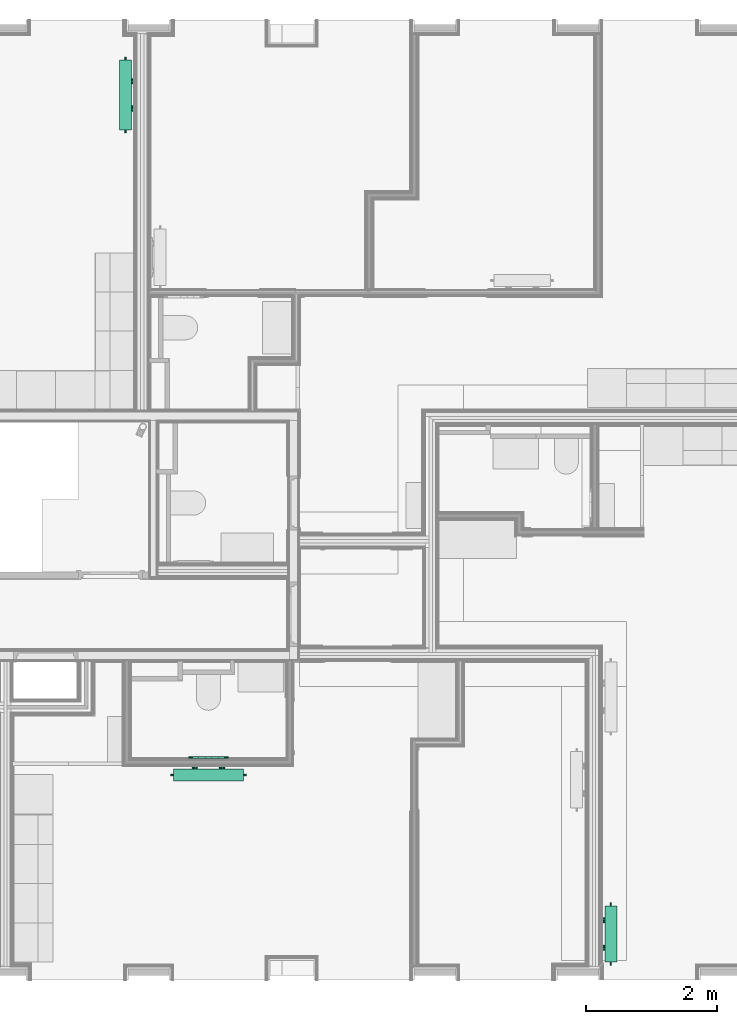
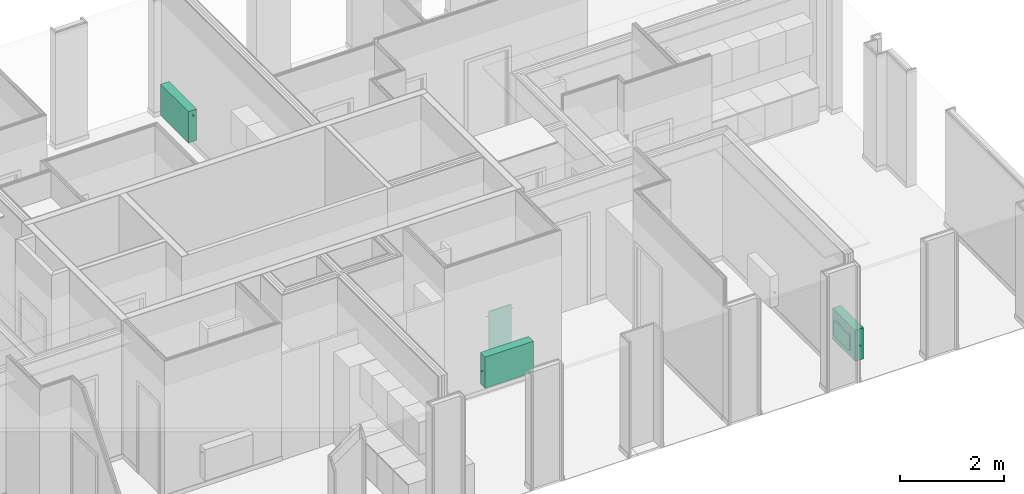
# One storey, part 58 of 64: 4 flow terminals.
"""IFC2X3 building model written with IfcOpenShell, lengths in metres."""

from ifc_helpers import new_model, entity, si_unit, converted_unit, derived_unit, money_unit, direction, frame, origin_with_axes, place, context, subcontext, project, spatial, open_shell, surface_model, material, type_object, element, save


model = new_model("IFC2X3")

# Units and contexts
model_context = context("Model", 3, precision=1e-05, world=origin_with_axes(), true_north=direction((0.0, 1.0)))
body_context = subcontext(model_context, "Body", "Model", "MODEL_VIEW", scale=1.0)
ifc_project = project(units=[si_unit("LENGTHUNIT", "METRE"), si_unit("AREAUNIT", "SQUARE_METRE"), si_unit("VOLUMEUNIT", "CUBIC_METRE"), si_unit("ABSORBEDDOSEUNIT", "GRAY"), si_unit("AMOUNTOFSUBSTANCEUNIT", "MOLE"), si_unit("DOSEEQUIVALENTUNIT", "SIEVERT"), si_unit("ELECTRICCAPACITANCEUNIT", "FARAD"), si_unit("ELECTRICCHARGEUNIT", "COULOMB"), si_unit("ELECTRICCONDUCTANCEUNIT", "SIEMENS"), si_unit("ELECTRICCURRENTUNIT", "AMPERE"), si_unit("ELECTRICRESISTANCEUNIT", "OHM"), si_unit("ELECTRICVOLTAGEUNIT", "VOLT"), si_unit("ENERGYUNIT", "JOULE"), si_unit("FORCEUNIT", "NEWTON"), si_unit("FREQUENCYUNIT", "HERTZ"), si_unit("ILLUMINANCEUNIT", "LUX"), si_unit("INDUCTANCEUNIT", "HENRY"), si_unit("LUMINOUSFLUXUNIT", "LUMEN"), si_unit("LUMINOUSINTENSITYUNIT", "CANDELA"), si_unit("MAGNETICFLUXDENSITYUNIT", "TESLA"), si_unit("MAGNETICFLUXUNIT", "WEBER"), si_unit("MASSUNIT", "GRAM"), converted_unit("PLANEANGLEUNIT", "degree", entity("IfcReal", 0.0174532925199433), si_unit("PLANEANGLEUNIT", "RADIAN"), dimensions=[0, 0, 0, 0, 0, 0, 0]), si_unit("POWERUNIT", "WATT"), si_unit("PRESSUREUNIT", "PASCAL"), si_unit("RADIOACTIVITYUNIT", "BECQUEREL"), si_unit("SOLIDANGLEUNIT", "STERADIAN"), si_unit("THERMODYNAMICTEMPERATUREUNIT", "KELVIN"), si_unit("TIMEUNIT", "SECOND"), derived_unit("ACCELERATIONUNIT", [(si_unit("LENGTHUNIT", "METRE"), 1), (si_unit("TIMEUNIT", "SECOND"), -2)]), derived_unit("ANGULARVELOCITYUNIT", [(converted_unit("PLANEANGLEUNIT", "degree", entity("IfcReal", 0.0174532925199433), si_unit("PLANEANGLEUNIT", "RADIAN"), dimensions=[0, 0, 0, 0, 0, 0, 0]), 1), (si_unit("TIMEUNIT", "SECOND"), -1)]), derived_unit("CURVATUREUNIT", [(converted_unit("PLANEANGLEUNIT", "degree", entity("IfcReal", 0.0174532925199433), si_unit("PLANEANGLEUNIT", "RADIAN"), dimensions=[0, 0, 0, 0, 0, 0, 0]), 1), (si_unit("LENGTHUNIT", "METRE"), -1)]), derived_unit("DYNAMICVISCOSITYUNIT", [(si_unit("PRESSUREUNIT", "PASCAL"), 1), (si_unit("TIMEUNIT", "SECOND"), 1)]), derived_unit("HEATFLUXDENSITYUNIT", [(si_unit("POWERUNIT", "WATT"), 1), (si_unit("LENGTHUNIT", "METRE"), -2)]), derived_unit("HEATINGVALUEUNIT", [(si_unit("ENERGYUNIT", "JOULE"), 1), (si_unit("MASSUNIT", "GRAM"), -1)]), derived_unit("INTEGERCOUNTRATEUNIT", [(si_unit("TIMEUNIT", "SECOND"), -1)]), derived_unit("IONCONCENTRATIONUNIT", [(si_unit("MASSUNIT", "GRAM"), 1), (si_unit("VOLUMEUNIT", "CUBIC_METRE"), -1)]), derived_unit("ISOTHERMALMOISTURECAPACITYUNIT", [(si_unit("VOLUMEUNIT", "CUBIC_METRE"), 1), (si_unit("MASSUNIT", "GRAM"), -1)]), derived_unit("KINEMATICVISCOSITYUNIT", [(si_unit("AREAUNIT", "SQUARE_METRE"), 1), (si_unit("TIMEUNIT", "SECOND"), -1)]), derived_unit("LINEARFORCEUNIT", [(si_unit("FORCEUNIT", "NEWTON"), 1), (si_unit("LENGTHUNIT", "METRE"), -1)]), derived_unit("LINEARMOMENTUNIT", [(si_unit("FORCEUNIT", "NEWTON"), 1), (si_unit("LENGTHUNIT", "METRE"), -1)]), derived_unit("LINEARSTIFFNESSUNIT", [(si_unit("FORCEUNIT", "NEWTON"), 1), (si_unit("LENGTHUNIT", "METRE"), -1)]), derived_unit("LINEARVELOCITYUNIT", [(si_unit("LENGTHUNIT", "METRE"), 1), (si_unit("TIMEUNIT", "SECOND"), -1)]), derived_unit("LUMINOUSINTENSITYDISTRIBUTIONUNIT", [(si_unit("LUMINOUSINTENSITYUNIT", "CANDELA"), 1), (si_unit("LUMINOUSFLUXUNIT", "LUMEN"), -1)]), derived_unit("MASSDENSITYUNIT", [(si_unit("MASSUNIT", "GRAM"), 1), (si_unit("VOLUMEUNIT", "CUBIC_METRE"), -1)]), derived_unit("MASSFLOWRATEUNIT", [(si_unit("MASSUNIT", "GRAM"), 1), (si_unit("TIMEUNIT", "SECOND"), -1)]), derived_unit("MASSPERLENGTHUNIT", [(si_unit("MASSUNIT", "GRAM"), 1), (si_unit("LENGTHUNIT", "METRE"), -1)]), derived_unit("MODULUSOFELASTICITYUNIT", [(si_unit("FORCEUNIT", "NEWTON"), 1), (si_unit("AREAUNIT", "SQUARE_METRE"), -1)]), derived_unit("MODULUSOFLINEARSUBGRADEREACTIONUNIT", [(si_unit("FORCEUNIT", "NEWTON"), 1), (si_unit("LENGTHUNIT", "METRE"), -2)]), derived_unit("MODULUSOFROTATIONALSUBGRADEREACTIONUNIT", [(si_unit("FORCEUNIT", "NEWTON"), 1), (si_unit("LENGTHUNIT", "METRE"), 1)]), derived_unit("MODULUSOFSUBGRADEREACTIONUNIT", [(si_unit("FORCEUNIT", "NEWTON"), 1), (si_unit("VOLUMEUNIT", "CUBIC_METRE"), -1)]), derived_unit("MOISTUREDIFFUSIVITYUNIT", [(si_unit("VOLUMEUNIT", "CUBIC_METRE"), 1), (si_unit("TIMEUNIT", "SECOND"), -1)]), derived_unit("MOLECULARWEIGHTUNIT", [(si_unit("MASSUNIT", "GRAM"), 1), (si_unit("AMOUNTOFSUBSTANCEUNIT", "MOLE"), -1)]), derived_unit("PLANARFORCEUNIT", [(si_unit("FORCEUNIT", "NEWTON"), 1), (si_unit("LENGTHUNIT", "METRE"), -2)]), derived_unit("ROTATIONALFREQUENCYUNIT", [(si_unit("TIMEUNIT", "SECOND"), -1)]), derived_unit("ROTATIONALMASSUNIT", [(si_unit("MASSUNIT", "GRAM"), 1), (si_unit("LENGTHUNIT", "METRE"), 2)]), derived_unit("ROTATIONALSTIFFNESSUNIT", [(si_unit("FORCEUNIT", "NEWTON"), 1), (si_unit("LENGTHUNIT", "METRE"), 1), (converted_unit("PLANEANGLEUNIT", "degree", entity("IfcReal", 0.0174532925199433), si_unit("PLANEANGLEUNIT", "RADIAN"), dimensions=[0, 0, 0, 0, 0, 0, 0]), -1)]), derived_unit("SECTIONAREAINTEGRALUNIT", [(si_unit("LENGTHUNIT", "METRE"), 5)]), derived_unit("SECTIONMODULUSUNIT", [(si_unit("LENGTHUNIT", "METRE"), 3)]), derived_unit("SHEARMODULUSUNIT", [(si_unit("FORCEUNIT", "NEWTON"), 1), (si_unit("AREAUNIT", "SQUARE_METRE"), -1)]), derived_unit("SOUNDPOWERUNIT", [(si_unit("ENERGYUNIT", "JOULE"), 1), (si_unit("TIMEUNIT", "SECOND"), -1)]), derived_unit("SPECIFICHEATCAPACITYUNIT", [(si_unit("FORCEUNIT", "NEWTON"), 1), (si_unit("MASSUNIT", "GRAM"), -1), (si_unit("THERMODYNAMICTEMPERATUREUNIT", "KELVIN"), -1)]), derived_unit("TEMPERATUREGRADIENTUNIT", [(si_unit("THERMODYNAMICTEMPERATUREUNIT", "KELVIN"), 1), (si_unit("LENGTHUNIT", "METRE"), -1)]), derived_unit("THERMALADMITTANCEUNIT", [(si_unit("POWERUNIT", "WATT"), 1), (si_unit("AREAUNIT", "SQUARE_METRE"), -1), (si_unit("THERMODYNAMICTEMPERATUREUNIT", "KELVIN"), -1)]), derived_unit("THERMALCONDUCTANCEUNIT", [(si_unit("POWERUNIT", "WATT"), 1), (si_unit("LENGTHUNIT", "METRE"), -1), (si_unit("THERMODYNAMICTEMPERATUREUNIT", "KELVIN"), -1)]), derived_unit("THERMALEXPANSIONCOEFFICIENTUNIT", [(si_unit("THERMODYNAMICTEMPERATUREUNIT", "KELVIN"), -1)]), derived_unit("THERMALRESISTANCEUNIT", [(si_unit("AREAUNIT", "SQUARE_METRE"), 1), (si_unit("POWERUNIT", "WATT"), -1)]), derived_unit("THERMALTRANSMITTANCEUNIT", [(si_unit("POWERUNIT", "WATT"), 1), (si_unit("AREAUNIT", "SQUARE_METRE"), -1), (si_unit("THERMODYNAMICTEMPERATUREUNIT", "KELVIN"), -1)]), derived_unit("TORQUEUNIT", [(si_unit("FORCEUNIT", "NEWTON"), 1), (si_unit("LENGTHUNIT", "METRE"), 1)]), derived_unit("VAPORPERMEABILITYUNIT", [(si_unit("MASSUNIT", "GRAM"), 1), (si_unit("TIMEUNIT", "SECOND"), -1)]), derived_unit("VOLUMETRICFLOWRATEUNIT", [(si_unit("VOLUMEUNIT", "CUBIC_METRE"), 1), (si_unit("TIMEUNIT", "SECOND"), -1)]), derived_unit("WARPINGCONSTANTUNIT", [(si_unit("LENGTHUNIT", "METRE"), 6)]), derived_unit("WARPINGMOMENTUNIT", [(si_unit("FORCEUNIT", "NEWTON"), 1), (si_unit("LENGTHUNIT", "METRE"), 2)]), money_unit("GBP")], contexts=[model_context])

# Site, building, storey, space
site_placement = place(None, origin_with_axes())
site = spatial("IfcSite", under=ifc_project, at=site_placement, Name="Site", CompositionType="ELEMENT")
building_placement = place(site_placement, origin_with_axes())
building = spatial("IfcBuilding", under=site, at=building_placement, Name="Building01", CompositionType="ELEMENT")
storey_placement = place(building_placement, frame((0.0, 0.0, 8.64), z_axis=(0.0, 0.0, 1.0), x_axis=(1.0, 0.0, 0.0)))
storey = spatial("IfcBuildingStorey", under=building, at=storey_placement, Name="2F", CompositionType="ELEMENT", Elevation=8.64)
space_1_placement = place(storey_placement, frame((14.85, 4.98, 0.017975), z_axis=(0.0, 0.0, 1.0), x_axis=(0.0, -1.0, 0.0)))
space_1 = spatial("IfcSpace", under=storey, at=space_1_placement, Name="11", CompositionType="ELEMENT", InteriorOrExteriorSpace="NOTDEFINED")

# Flow terminal
ifc_material = material(Name="M_BSUK_Ventilation")
space_heater_type_1 = type_object("IfcSpaceHeaterType", Name="M-BmvRadiatorpanel-Panel", PredefinedType="NOTDEFINED")
flow_terminal_1_placement = place(storey_placement, frame((16.072964, 3.23975, 0.68), z_axis=(0.0, 0.0, 1.0), x_axis=(1.0, 0.0, 0.0)))
element("IfcFlowTerminal", 1, at=flow_terminal_1_placement, inside=space_1, type_object=space_heater_type_1, material=ifc_material, Name="M-BmvRadiatorpanel-Panel", ObjectType="M-BmvRadiatorpanel-Panel", context=body_context, shape_type="SurfaceModel", body=[
    surface_model("IfcShellBasedSurfaceModel", [(1.069, -0.0925, 0.365), (1.069, 0.0925, 0.365), (0.0, 0.0925, 0.365), (0.0, -0.0925, 0.365), (1.069, -0.0925, -0.365), (1.069, 0.0925, -0.365), (0.0, -0.0925, -0.365), (0.0, 0.0925, -0.365), (0.2345, 0.12025, 0.175), (0.8345, 0.12025, 0.175), (0.8345, 0.14525, 0.175), (0.2345, 0.14525, 0.175), (0.8345, 0.14525, -0.175), (0.2345, 0.14525, -0.175), (0.8345, 0.12025, -0.175), (0.2345, 0.12025, -0.175), (0.3245, 0.0925, 0.0775), (0.3245, 0.12025, 0.0775), (0.341721, 0.12025, 0.080925), (0.341721, 0.0925, 0.080925), (0.35632, 0.12025, 0.09068), (0.35632, 0.0925, 0.09068), (0.366075, 0.12025, 0.105279), (0.366075, 0.0925, 0.105279), (0.3695, 0.12025, 0.1225), (0.3695, 0.0925, 0.1225), (0.366075, 0.12025, 0.139721), (0.366075, 0.0925, 0.139721), (0.35632, 0.12025, 0.15432), (0.35632, 0.0925, 0.15432), (0.341721, 0.12025, 0.164075), (0.341721, 0.0925, 0.164075), (0.3245, 0.12025, 0.1675), (0.3245, 0.0925, 0.1675), (0.307279, 0.12025, 0.164075), (0.307279, 0.0925, 0.164075), (0.29268, 0.12025, 0.15432), (0.29268, 0.0925, 0.15432), (0.282925, 0.12025, 0.139721), (0.282925, 0.0925, 0.139721), (0.2795, 0.12025, 0.1225), (0.2795, 0.0925, 0.1225), (0.282925, 0.12025, 0.105279), (0.282925, 0.0925, 0.105279), (0.29268, 0.12025, 0.09068), (0.29268, 0.0925, 0.09068), (0.307279, 0.12025, 0.080925), (0.307279, 0.0925, 0.080925), (0.7445, 0.0925, 0.0775), (0.7445, 0.12025, 0.0775), (0.761721, 0.12025, 0.080925), (0.761721, 0.0925, 0.080925), (0.77632, 0.12025, 0.09068), (0.77632, 0.0925, 0.09068), (0.786075, 0.12025, 0.105279), (0.786075, 0.0925, 0.105279), (0.7895, 0.12025, 0.1225), (0.7895, 0.0925, 0.1225), (0.786075, 0.12025, 0.139721), (0.786075, 0.0925, 0.139721), (0.77632, 0.12025, 0.15432), (0.77632, 0.0925, 0.15432), (0.761721, 0.12025, 0.164075), (0.761721, 0.0925, 0.164075), (0.7445, 0.12025, 0.1675), (0.7445, 0.0925, 0.1675), (0.727279, 0.12025, 0.164075), (0.727279, 0.0925, 0.164075), (0.71268, 0.12025, 0.15432), (0.71268, 0.0925, 0.15432), (0.702925, 0.12025, 0.139721), (0.702925, 0.0925, 0.139721), (0.6995, 0.12025, 0.1225), (0.6995, 0.0925, 0.1225), (0.702925, 0.12025, 0.105279), (0.702925, 0.0925, 0.105279), (0.71268, 0.12025, 0.09068), (0.71268, 0.0925, 0.09068), (0.727279, 0.12025, 0.080925), (0.727279, 0.0925, 0.080925), (-0.05, 0.0, -0.0225), (0.0, 0.0, -0.0225), (0.0, -0.004784, -0.021548), (-0.05, -0.004784, -0.021548), (0.0, -0.008839, -0.018839), (-0.05, -0.008839, -0.018839), (0.0, -0.011548, -0.014784), (-0.05, -0.011548, -0.014784), (0.0, -0.0125, -0.01), (-0.05, -0.0125, -0.01), (0.0, -0.011548, -0.005216), (-0.05, -0.011548, -0.005216), (0.0, -0.008839, -0.001161), (-0.05, -0.008839, -0.001161), (0.0, -0.004784, 0.001548), (-0.05, -0.004784, 0.001548), (0.0, 0.0, 0.0025), (-0.05, 0.0, 0.0025), (0.0, 0.004784, 0.001548), (-0.05, 0.004784, 0.001548), (0.0, 0.008839, -0.001161), (-0.05, 0.008839, -0.001161), (0.0, 0.011548, -0.005216), (-0.05, 0.011548, -0.005216), (0.0, 0.0125, -0.01), (-0.05, 0.0125, -0.01), (0.0, 0.011548, -0.014784), (-0.05, 0.011548, -0.014784), (0.0, 0.008839, -0.018839), (-0.05, 0.008839, -0.018839), (0.0, 0.004784, -0.021548), (-0.05, 0.004784, -0.021548), (1.119, 0.0, 0.2525), (1.069, 0.0, 0.2525), (1.069, 0.004784, 0.253452), (1.119, 0.004784, 0.253452), (1.069, 0.008839, 0.256161), (1.119, 0.008839, 0.256161), (1.069, 0.011548, 0.260216), (1.119, 0.011548, 0.260216), (1.069, 0.0125, 0.265), (1.119, 0.0125, 0.265), (1.069, 0.011548, 0.269784), (1.119, 0.011548, 0.269784), (1.069, 0.008839, 0.273839), (1.119, 0.008839, 0.273839), (1.069, 0.004784, 0.276548), (1.119, 0.004784, 0.276548), (1.069, 0.0, 0.2775), (1.119, 0.0, 0.2775), (1.069, -0.004784, 0.276548), (1.119, -0.004784, 0.276548), (1.069, -0.008839, 0.273839), (1.119, -0.008839, 0.273839), (1.069, -0.011548, 0.269784), (1.119, -0.011548, 0.269784), (1.069, -0.0125, 0.265), (1.119, -0.0125, 0.265), (1.069, -0.011548, 0.260216), (1.119, -0.011548, 0.260216), (1.069, -0.008839, 0.256161), (1.119, -0.008839, 0.256161), (1.069, -0.004784, 0.253452), (1.119, -0.004784, 0.253452)], [open_shell([[[0, 1, 2, 3]], [[4, 5, 1, 0]], [[6, 7, 5, 4]], [[3, 2, 7, 6]], [[1, 5, 7, 2]], [[3, 6, 4, 0]], [[8, 9, 10, 11]], [[11, 10, 12, 13]], [[13, 12, 14, 15]], [[15, 14, 9, 8]], [[9, 14, 12, 10]], [[11, 13, 15, 8]], [[16, 17, 18, 19]], [[19, 18, 20, 21]], [[21, 20, 22, 23]], [[23, 22, 24, 25]], [[25, 24, 26, 27]], [[27, 26, 28, 29]], [[29, 28, 30, 31]], [[31, 30, 32, 33]], [[33, 32, 34, 35]], [[35, 34, 36, 37]], [[37, 36, 38, 39]], [[39, 38, 40, 41]], [[41, 40, 42, 43]], [[43, 42, 44, 45]], [[45, 44, 46, 47]], [[47, 46, 17, 16]], [[48, 49, 50, 51]], [[51, 50, 52, 53]], [[53, 52, 54, 55]], [[55, 54, 56, 57]], [[57, 56, 58, 59]], [[59, 58, 60, 61]], [[61, 60, 62, 63]], [[63, 62, 64, 65]], [[65, 64, 66, 67]], [[67, 66, 68, 69]], [[69, 68, 70, 71]], [[71, 70, 72, 73]], [[73, 72, 74, 75]], [[75, 74, 76, 77]], [[77, 76, 78, 79]], [[79, 78, 49, 48]], [[80, 81, 82, 83]], [[83, 82, 84, 85]], [[85, 84, 86, 87]], [[87, 86, 88, 89]], [[89, 88, 90, 91]], [[91, 90, 92, 93]], [[93, 92, 94, 95]], [[95, 94, 96, 97]], [[97, 96, 98, 99]], [[99, 98, 100, 101]], [[101, 100, 102, 103]], [[103, 102, 104, 105]], [[105, 104, 106, 107]], [[107, 106, 108, 109]], [[109, 108, 110, 111]], [[111, 110, 81, 80]], [[112, 113, 114, 115]], [[115, 114, 116, 117]], [[117, 116, 118, 119]], [[119, 118, 120, 121]], [[121, 120, 122, 123]], [[123, 122, 124, 125]], [[125, 124, 126, 127]], [[127, 126, 128, 129]], [[129, 128, 130, 131]], [[131, 130, 132, 133]], [[133, 132, 134, 135]], [[135, 134, 136, 137]], [[137, 136, 138, 139]], [[139, 138, 140, 141]], [[141, 140, 142, 143]], [[143, 142, 113, 112]]])]),
])

# Space
space_2_placement = place(storey_placement, frame((20.122661, 7.155, 0.017975), z_axis=(0.0, 0.0, 1.0), x_axis=(0.0, -1.0, 0.0)))
space_2 = spatial("IfcSpace", under=storey, at=space_2_placement, Name="studio", CompositionType="ELEMENT", InteriorOrExteriorSpace="NOTDEFINED")

# Flow terminal
flow_terminal_2_placement = place(storey_placement, frame((22.77025, 0.371927, 0.68), z_axis=(0.0, 0.0, 1.0), x_axis=(0.0, 1.0, 0.0)))
element("IfcFlowTerminal", 2, at=flow_terminal_2_placement, inside=space_2, type_object=space_heater_type_1, material=ifc_material, Name="M-BmvRadiatorpanel-Panel", ObjectType="M-BmvRadiatorpanel-Panel", context=body_context, shape_type="SurfaceModel", body=[
    surface_model("IfcShellBasedSurfaceModel", [(0.865, -0.0925, 0.365), (0.865, 0.0925, 0.365), (0.0, 0.0925, 0.365), (0.0, -0.0925, 0.365), (0.865, -0.0925, -0.365), (0.865, 0.0925, -0.365), (0.0, -0.0925, -0.365), (0.0, 0.0925, -0.365), (0.1325, 0.12025, 0.175), (0.7325, 0.12025, 0.175), (0.7325, 0.14525, 0.175), (0.1325, 0.14525, 0.175), (0.7325, 0.14525, -0.175), (0.1325, 0.14525, -0.175), (0.7325, 0.12025, -0.175), (0.1325, 0.12025, -0.175), (0.2225, 0.0925, 0.0775), (0.2225, 0.12025, 0.0775), (0.239721, 0.12025, 0.080925), (0.239721, 0.0925, 0.080925), (0.25432, 0.12025, 0.09068), (0.25432, 0.0925, 0.09068), (0.264075, 0.12025, 0.105279), (0.264075, 0.0925, 0.105279), (0.2675, 0.12025, 0.1225), (0.2675, 0.0925, 0.1225), (0.264075, 0.12025, 0.139721), (0.264075, 0.0925, 0.139721), (0.25432, 0.12025, 0.15432), (0.25432, 0.0925, 0.15432), (0.239721, 0.12025, 0.164075), (0.239721, 0.0925, 0.164075), (0.2225, 0.12025, 0.1675), (0.2225, 0.0925, 0.1675), (0.205279, 0.12025, 0.164075), (0.205279, 0.0925, 0.164075), (0.19068, 0.12025, 0.15432), (0.19068, 0.0925, 0.15432), (0.180925, 0.12025, 0.139721), (0.180925, 0.0925, 0.139721), (0.1775, 0.12025, 0.1225), (0.1775, 0.0925, 0.1225), (0.180925, 0.12025, 0.105279), (0.180925, 0.0925, 0.105279), (0.19068, 0.12025, 0.09068), (0.19068, 0.0925, 0.09068), (0.205279, 0.12025, 0.080925), (0.205279, 0.0925, 0.080925), (0.6425, 0.0925, 0.0775), (0.6425, 0.12025, 0.0775), (0.659721, 0.12025, 0.080925), (0.659721, 0.0925, 0.080925), (0.67432, 0.12025, 0.09068), (0.67432, 0.0925, 0.09068), (0.684075, 0.12025, 0.105279), (0.684075, 0.0925, 0.105279), (0.6875, 0.12025, 0.1225), (0.6875, 0.0925, 0.1225), (0.684075, 0.12025, 0.139721), (0.684075, 0.0925, 0.139721), (0.67432, 0.12025, 0.15432), (0.67432, 0.0925, 0.15432), (0.659721, 0.12025, 0.164075), (0.659721, 0.0925, 0.164075), (0.6425, 0.12025, 0.1675), (0.6425, 0.0925, 0.1675), (0.625279, 0.12025, 0.164075), (0.625279, 0.0925, 0.164075), (0.61068, 0.12025, 0.15432), (0.61068, 0.0925, 0.15432), (0.600925, 0.12025, 0.139721), (0.600925, 0.0925, 0.139721), (0.5975, 0.12025, 0.1225), (0.5975, 0.0925, 0.1225), (0.600925, 0.12025, 0.105279), (0.600925, 0.0925, 0.105279), (0.61068, 0.12025, 0.09068), (0.61068, 0.0925, 0.09068), (0.625279, 0.12025, 0.080925), (0.625279, 0.0925, 0.080925), (-0.05, 0.0, -0.0225), (0.0, 0.0, -0.0225), (0.0, -0.004784, -0.021548), (-0.05, -0.004784, -0.021548), (0.0, -0.008839, -0.018839), (-0.05, -0.008839, -0.018839), (0.0, -0.011548, -0.014784), (-0.05, -0.011548, -0.014784), (0.0, -0.0125, -0.01), (-0.05, -0.0125, -0.01), (0.0, -0.011548, -0.005216), (-0.05, -0.011548, -0.005216), (0.0, -0.008839, -0.001161), (-0.05, -0.008839, -0.001161), (0.0, -0.004784, 0.001548), (-0.05, -0.004784, 0.001548), (0.0, 0.0, 0.0025), (-0.05, 0.0, 0.0025), (0.0, 0.004784, 0.001548), (-0.05, 0.004784, 0.001548), (0.0, 0.008839, -0.001161), (-0.05, 0.008839, -0.001161), (0.0, 0.011548, -0.005216), (-0.05, 0.011548, -0.005216), (0.0, 0.0125, -0.01), (-0.05, 0.0125, -0.01), (0.0, 0.011548, -0.014784), (-0.05, 0.011548, -0.014784), (0.0, 0.008839, -0.018839), (-0.05, 0.008839, -0.018839), (0.0, 0.004784, -0.021548), (-0.05, 0.004784, -0.021548), (0.915, 0.0, 0.2525), (0.865, 0.0, 0.2525), (0.865, 0.004784, 0.253452), (0.915, 0.004784, 0.253452), (0.865, 0.008839, 0.256161), (0.915, 0.008839, 0.256161), (0.865, 0.011548, 0.260216), (0.915, 0.011548, 0.260216), (0.865, 0.0125, 0.265), (0.915, 0.0125, 0.265), (0.865, 0.011548, 0.269784), (0.915, 0.011548, 0.269784), (0.865, 0.008839, 0.273839), (0.915, 0.008839, 0.273839), (0.865, 0.004784, 0.276548), (0.915, 0.004784, 0.276548), (0.865, 0.0, 0.2775), (0.915, 0.0, 0.2775), (0.865, -0.004784, 0.276548), (0.915, -0.004784, 0.276548), (0.865, -0.008839, 0.273839), (0.915, -0.008839, 0.273839), (0.865, -0.011548, 0.269784), (0.915, -0.011548, 0.269784), (0.865, -0.0125, 0.265), (0.915, -0.0125, 0.265), (0.865, -0.011548, 0.260216), (0.915, -0.011548, 0.260216), (0.865, -0.008839, 0.256161), (0.915, -0.008839, 0.256161), (0.865, -0.004784, 0.253452), (0.915, -0.004784, 0.253452)], [open_shell([[[0, 1, 2, 3]], [[4, 5, 1, 0]], [[6, 7, 5, 4]], [[3, 2, 7, 6]], [[1, 5, 7, 2]], [[3, 6, 4, 0]], [[8, 9, 10, 11]], [[11, 10, 12, 13]], [[13, 12, 14, 15]], [[15, 14, 9, 8]], [[9, 14, 12, 10]], [[11, 13, 15, 8]], [[16, 17, 18, 19]], [[19, 18, 20, 21]], [[21, 20, 22, 23]], [[23, 22, 24, 25]], [[25, 24, 26, 27]], [[27, 26, 28, 29]], [[29, 28, 30, 31]], [[31, 30, 32, 33]], [[33, 32, 34, 35]], [[35, 34, 36, 37]], [[37, 36, 38, 39]], [[39, 38, 40, 41]], [[41, 40, 42, 43]], [[43, 42, 44, 45]], [[45, 44, 46, 47]], [[47, 46, 17, 16]], [[48, 49, 50, 51]], [[51, 50, 52, 53]], [[53, 52, 54, 55]], [[55, 54, 56, 57]], [[57, 56, 58, 59]], [[59, 58, 60, 61]], [[61, 60, 62, 63]], [[63, 62, 64, 65]], [[65, 64, 66, 67]], [[67, 66, 68, 69]], [[69, 68, 70, 71]], [[71, 70, 72, 73]], [[73, 72, 74, 75]], [[75, 74, 76, 77]], [[77, 76, 78, 79]], [[79, 78, 49, 48]], [[80, 81, 82, 83]], [[83, 82, 84, 85]], [[85, 84, 86, 87]], [[87, 86, 88, 89]], [[89, 88, 90, 91]], [[91, 90, 92, 93]], [[93, 92, 94, 95]], [[95, 94, 96, 97]], [[97, 96, 98, 99]], [[99, 98, 100, 101]], [[101, 100, 102, 103]], [[103, 102, 104, 105]], [[105, 104, 106, 107]], [[107, 106, 108, 109]], [[109, 108, 110, 111]], [[111, 110, 81, 80]], [[112, 113, 114, 115]], [[115, 114, 116, 117]], [[117, 116, 118, 119]], [[119, 118, 120, 121]], [[121, 120, 122, 123]], [[123, 122, 124, 125]], [[125, 124, 126, 127]], [[127, 126, 128, 129]], [[129, 128, 130, 131]], [[131, 130, 132, 133]], [[133, 132, 134, 135]], [[135, 134, 136, 137]], [[137, 136, 138, 139]], [[139, 138, 140, 141]], [[141, 140, 142, 143]], [[143, 142, 113, 112]]])]),
])

# Space
space_3_placement = place(storey_placement, frame((11.275, 10.415, 0.017975), z_axis=(0.0, 0.0, 1.0), x_axis=(1.0, 0.0, 0.0)))
space_3 = spatial("IfcSpace", under=storey, at=space_3_placement, Name="k/d/l", CompositionType="ELEMENT", InteriorOrExteriorSpace="NOTDEFINED")

# Flow terminal
flow_terminal_3_placement = place(storey_placement, frame((15.337882, 14.187, 0.68), z_axis=(0.0, 0.0, 1.0), x_axis=(0.0, -1.0, 0.0)))
element("IfcFlowTerminal", 3, at=flow_terminal_3_placement, inside=space_3, type_object=space_heater_type_1, material=ifc_material, Name="M-BmvRadiatorpanel-Panel", ObjectType="M-BmvRadiatorpanel-Panel", context=body_context, shape_type="SurfaceModel", body=[
    surface_model("IfcShellBasedSurfaceModel", [(1.069, -0.0925, 0.365), (1.069, 0.0925, 0.365), (0.0, 0.0925, 0.365), (0.0, -0.0925, 0.365), (1.069, -0.0925, -0.365), (1.069, 0.0925, -0.365), (0.0, -0.0925, -0.365), (0.0, 0.0925, -0.365), (0.2345, 0.12025, 0.175), (0.8345, 0.12025, 0.175), (0.8345, 0.14525, 0.175), (0.2345, 0.14525, 0.175), (0.8345, 0.14525, -0.175), (0.2345, 0.14525, -0.175), (0.8345, 0.12025, -0.175), (0.2345, 0.12025, -0.175), (0.3245, 0.0925, 0.0775), (0.3245, 0.12025, 0.0775), (0.341721, 0.12025, 0.080925), (0.341721, 0.0925, 0.080925), (0.35632, 0.12025, 0.09068), (0.35632, 0.0925, 0.09068), (0.366075, 0.12025, 0.105279), (0.366075, 0.0925, 0.105279), (0.3695, 0.12025, 0.1225), (0.3695, 0.0925, 0.1225), (0.366075, 0.12025, 0.139721), (0.366075, 0.0925, 0.139721), (0.35632, 0.12025, 0.15432), (0.35632, 0.0925, 0.15432), (0.341721, 0.12025, 0.164075), (0.341721, 0.0925, 0.164075), (0.3245, 0.12025, 0.1675), (0.3245, 0.0925, 0.1675), (0.307279, 0.12025, 0.164075), (0.307279, 0.0925, 0.164075), (0.29268, 0.12025, 0.15432), (0.29268, 0.0925, 0.15432), (0.282925, 0.12025, 0.139721), (0.282925, 0.0925, 0.139721), (0.2795, 0.12025, 0.1225), (0.2795, 0.0925, 0.1225), (0.282925, 0.12025, 0.105279), (0.282925, 0.0925, 0.105279), (0.29268, 0.12025, 0.09068), (0.29268, 0.0925, 0.09068), (0.307279, 0.12025, 0.080925), (0.307279, 0.0925, 0.080925), (0.7445, 0.0925, 0.0775), (0.7445, 0.12025, 0.0775), (0.761721, 0.12025, 0.080925), (0.761721, 0.0925, 0.080925), (0.77632, 0.12025, 0.09068), (0.77632, 0.0925, 0.09068), (0.786075, 0.12025, 0.105279), (0.786075, 0.0925, 0.105279), (0.7895, 0.12025, 0.1225), (0.7895, 0.0925, 0.1225), (0.786075, 0.12025, 0.139721), (0.786075, 0.0925, 0.139721), (0.77632, 0.12025, 0.15432), (0.77632, 0.0925, 0.15432), (0.761721, 0.12025, 0.164075), (0.761721, 0.0925, 0.164075), (0.7445, 0.12025, 0.1675), (0.7445, 0.0925, 0.1675), (0.727279, 0.12025, 0.164075), (0.727279, 0.0925, 0.164075), (0.71268, 0.12025, 0.15432), (0.71268, 0.0925, 0.15432), (0.702925, 0.12025, 0.139721), (0.702925, 0.0925, 0.139721), (0.6995, 0.12025, 0.1225), (0.6995, 0.0925, 0.1225), (0.702925, 0.12025, 0.105279), (0.702925, 0.0925, 0.105279), (0.71268, 0.12025, 0.09068), (0.71268, 0.0925, 0.09068), (0.727279, 0.12025, 0.080925), (0.727279, 0.0925, 0.080925), (-0.05, 0.0, -0.0225), (0.0, 0.0, -0.0225), (0.0, -0.004784, -0.021548), (-0.05, -0.004784, -0.021548), (0.0, -0.008839, -0.018839), (-0.05, -0.008839, -0.018839), (0.0, -0.011548, -0.014784), (-0.05, -0.011548, -0.014784), (0.0, -0.0125, -0.01), (-0.05, -0.0125, -0.01), (0.0, -0.011548, -0.005216), (-0.05, -0.011548, -0.005216), (0.0, -0.008839, -0.001161), (-0.05, -0.008839, -0.001161), (0.0, -0.004784, 0.001548), (-0.05, -0.004784, 0.001548), (0.0, 0.0, 0.0025), (-0.05, 0.0, 0.0025), (0.0, 0.004784, 0.001548), (-0.05, 0.004784, 0.001548), (0.0, 0.008839, -0.001161), (-0.05, 0.008839, -0.001161), (0.0, 0.011548, -0.005216), (-0.05, 0.011548, -0.005216), (0.0, 0.0125, -0.01), (-0.05, 0.0125, -0.01), (0.0, 0.011548, -0.014784), (-0.05, 0.011548, -0.014784), (0.0, 0.008839, -0.018839), (-0.05, 0.008839, -0.018839), (0.0, 0.004784, -0.021548), (-0.05, 0.004784, -0.021548), (1.119, 0.0, 0.2525), (1.069, 0.0, 0.2525), (1.069, 0.004784, 0.253452), (1.119, 0.004784, 0.253452), (1.069, 0.008839, 0.256161), (1.119, 0.008839, 0.256161), (1.069, 0.011548, 0.260216), (1.119, 0.011548, 0.260216), (1.069, 0.0125, 0.265), (1.119, 0.0125, 0.265), (1.069, 0.011548, 0.269784), (1.119, 0.011548, 0.269784), (1.069, 0.008839, 0.273839), (1.119, 0.008839, 0.273839), (1.069, 0.004784, 0.276548), (1.119, 0.004784, 0.276548), (1.069, 0.0, 0.2775), (1.119, 0.0, 0.2775), (1.069, -0.004784, 0.276548), (1.119, -0.004784, 0.276548), (1.069, -0.008839, 0.273839), (1.119, -0.008839, 0.273839), (1.069, -0.011548, 0.269784), (1.119, -0.011548, 0.269784), (1.069, -0.0125, 0.265), (1.119, -0.0125, 0.265), (1.069, -0.011548, 0.260216), (1.119, -0.011548, 0.260216), (1.069, -0.008839, 0.256161), (1.119, -0.008839, 0.256161), (1.069, -0.004784, 0.253452), (1.119, -0.004784, 0.253452)], [open_shell([[[0, 1, 2, 3]], [[4, 5, 1, 0]], [[6, 7, 5, 4]], [[3, 2, 7, 6]], [[1, 5, 7, 2]], [[3, 6, 4, 0]], [[8, 9, 10, 11]], [[11, 10, 12, 13]], [[13, 12, 14, 15]], [[15, 14, 9, 8]], [[9, 14, 12, 10]], [[11, 13, 15, 8]], [[16, 17, 18, 19]], [[19, 18, 20, 21]], [[21, 20, 22, 23]], [[23, 22, 24, 25]], [[25, 24, 26, 27]], [[27, 26, 28, 29]], [[29, 28, 30, 31]], [[31, 30, 32, 33]], [[33, 32, 34, 35]], [[35, 34, 36, 37]], [[37, 36, 38, 39]], [[39, 38, 40, 41]], [[41, 40, 42, 43]], [[43, 42, 44, 45]], [[45, 44, 46, 47]], [[47, 46, 17, 16]], [[48, 49, 50, 51]], [[51, 50, 52, 53]], [[53, 52, 54, 55]], [[55, 54, 56, 57]], [[57, 56, 58, 59]], [[59, 58, 60, 61]], [[61, 60, 62, 63]], [[63, 62, 64, 65]], [[65, 64, 66, 67]], [[67, 66, 68, 69]], [[69, 68, 70, 71]], [[71, 70, 72, 73]], [[73, 72, 74, 75]], [[75, 74, 76, 77]], [[77, 76, 78, 79]], [[79, 78, 49, 48]], [[80, 81, 82, 83]], [[83, 82, 84, 85]], [[85, 84, 86, 87]], [[87, 86, 88, 89]], [[89, 88, 90, 91]], [[91, 90, 92, 93]], [[93, 92, 94, 95]], [[95, 94, 96, 97]], [[97, 96, 98, 99]], [[99, 98, 100, 101]], [[101, 100, 102, 103]], [[103, 102, 104, 105]], [[105, 104, 106, 107]], [[107, 106, 108, 109]], [[109, 108, 110, 111]], [[111, 110, 81, 80]], [[112, 113, 114, 115]], [[115, 114, 116, 117]], [[117, 116, 118, 119]], [[119, 118, 120, 121]], [[121, 120, 122, 123]], [[123, 122, 124, 125]], [[125, 124, 126, 127]], [[127, 126, 128, 129]], [[129, 128, 130, 131]], [[131, 130, 132, 133]], [[133, 132, 134, 135]], [[135, 134, 136, 137]], [[137, 136, 138, 139]], [[139, 138, 140, 141]], [[141, 140, 142, 143]], [[143, 142, 113, 112]]])]),
])

# Space
space_4_placement = place(storey_placement, frame((17.8075, 4.98, 0.017975), z_axis=(0.0, 0.0, 1.0), x_axis=(-1.0, 0.0, 0.0)))
space_4 = spatial("IfcSpace", under=storey, at=space_4_placement, Name="bath", CompositionType="ELEMENT", InteriorOrExteriorSpace="NOTDEFINED")

# Flow terminal
space_heater_type_2 = type_object("IfcSpaceHeaterType", Name="M-BmvRadiator-Column", PredefinedType="NOTDEFINED")
flow_terminal_4_placement = place(storey_placement, frame((16.3575, 3.5075, 1.2), z_axis=(0.0, 0.0, 1.0), x_axis=(1.0, 0.0, 0.0)))
element("IfcFlowTerminal", 4, at=flow_terminal_4_placement, inside=space_4, type_object=space_heater_type_2, material=ifc_material, Name="M-BmvRadiator-Column", ObjectType="M-BmvRadiator-Column", context=body_context, shape_type="SurfaceModel", body=[
    surface_model("IfcShellBasedSurfaceModel", [(0.0, -0.0125, 0.6), (0.0, -0.0125, -0.6), (0.0, 0.0125, -0.6), (0.0, 0.0125, 0.6), (0.5, -0.0125, 0.6), (0.5, -0.0125, -0.6), (0.5, 0.0125, -0.6), (0.5, 0.0125, 0.6), (0.1, 0.0125, 0.6), (0.1, -0.0125, 0.6), (0.1, -0.0125, -0.6), (0.1, 0.0125, -0.6), (0.2, 0.0125, 0.6), (0.2, -0.0125, 0.6), (0.2, -0.0125, -0.6), (0.2, 0.0125, -0.6), (0.3, 0.0125, 0.6), (0.3, -0.0125, 0.6), (0.3, -0.0125, -0.6), (0.3, 0.0125, -0.6), (0.4, 0.0125, 0.6), (0.4, -0.0125, 0.6), (0.4, -0.0125, -0.6), (0.4, 0.0125, -0.6), (-0.05, 0.0, 0.4825), (0.0, 0.0, 0.4825), (0.0, -0.003827, 0.483261), (-0.05, -0.003827, 0.483261), (0.0, -0.007071, 0.485429), (-0.05, -0.007071, 0.485429), (0.0, -0.009239, 0.488673), (-0.05, -0.009239, 0.488673), (0.0, -0.01, 0.4925), (-0.05, -0.01, 0.4925), (0.0, -0.009239, 0.496327), (-0.05, -0.009239, 0.496327), (0.0, -0.007071, 0.499571), (-0.05, -0.007071, 0.499571), (0.0, -0.003827, 0.501739), (-0.05, -0.003827, 0.501739), (0.0, 0.0, 0.5025), (-0.05, 0.0, 0.5025), (0.0, 0.003827, 0.501739), (-0.05, 0.003827, 0.501739), (0.0, 0.007071, 0.499571), (-0.05, 0.007071, 0.499571), (0.0, 0.009239, 0.496327), (-0.05, 0.009239, 0.496327), (0.0, 0.01, 0.4925), (-0.05, 0.01, 0.4925), (0.0, 0.009239, 0.488673), (-0.05, 0.009239, 0.488673), (0.0, 0.007071, 0.485429), (-0.05, 0.007071, 0.485429), (0.0, 0.003827, 0.483261), (-0.05, 0.003827, 0.483261), (0.55, 0.0, 0.4884), (0.5, 0.0, 0.4884), (0.5, 0.003827, 0.489161), (0.55, 0.003827, 0.489161), (0.5, 0.007071, 0.491329), (0.55, 0.007071, 0.491329), (0.5, 0.009239, 0.494573), (0.55, 0.009239, 0.494573), (0.5, 0.01, 0.4984), (0.55, 0.01, 0.4984), (0.5, 0.009239, 0.502227), (0.55, 0.009239, 0.502227), (0.5, 0.007071, 0.505471), (0.55, 0.007071, 0.505471), (0.5, 0.003827, 0.507639), (0.55, 0.003827, 0.507639), (0.5, 0.0, 0.5084), (0.55, 0.0, 0.5084), (0.5, -0.003827, 0.507639), (0.55, -0.003827, 0.507639), (0.5, -0.007071, 0.505471), (0.55, -0.007071, 0.505471), (0.5, -0.009239, 0.502227), (0.55, -0.009239, 0.502227), (0.5, -0.01, 0.4984), (0.55, -0.01, 0.4984), (0.5, -0.009239, 0.494573), (0.55, -0.009239, 0.494573), (0.5, -0.007071, 0.491329), (0.55, -0.007071, 0.491329), (0.5, -0.003827, 0.489161), (0.55, -0.003827, 0.489161)], [open_shell([[[0, 1, 2, 3]], [[4, 5, 6, 7]], [[8, 3, 0, 9]], [[9, 0, 1, 10]], [[10, 1, 2, 11]], [[11, 2, 3, 8]], [[12, 8, 9, 13]], [[13, 9, 10, 14]], [[14, 10, 11, 15]], [[15, 11, 8, 12]], [[16, 12, 13, 17]], [[17, 13, 14, 18]], [[18, 14, 15, 19]], [[19, 15, 12, 16]], [[20, 16, 17, 21]], [[21, 17, 18, 22]], [[22, 18, 19, 23]], [[23, 19, 16, 20]], [[7, 20, 21, 4]], [[4, 21, 22, 5]], [[5, 22, 23, 6]], [[6, 23, 20, 7]], [[24, 25, 26, 27]], [[27, 26, 28, 29]], [[29, 28, 30, 31]], [[31, 30, 32, 33]], [[33, 32, 34, 35]], [[35, 34, 36, 37]], [[37, 36, 38, 39]], [[39, 38, 40, 41]], [[41, 40, 42, 43]], [[43, 42, 44, 45]], [[45, 44, 46, 47]], [[47, 46, 48, 49]], [[49, 48, 50, 51]], [[51, 50, 52, 53]], [[53, 52, 54, 55]], [[55, 54, 25, 24]], [[56, 57, 58, 59]], [[59, 58, 60, 61]], [[61, 60, 62, 63]], [[63, 62, 64, 65]], [[65, 64, 66, 67]], [[67, 66, 68, 69]], [[69, 68, 70, 71]], [[71, 70, 72, 73]], [[73, 72, 74, 75]], [[75, 74, 76, 77]], [[77, 76, 78, 79]], [[79, 78, 80, 81]], [[81, 80, 82, 83]], [[83, 82, 84, 85]], [[85, 84, 86, 87]], [[87, 86, 57, 56]]])]),
])

save(model, "model.ifc")
